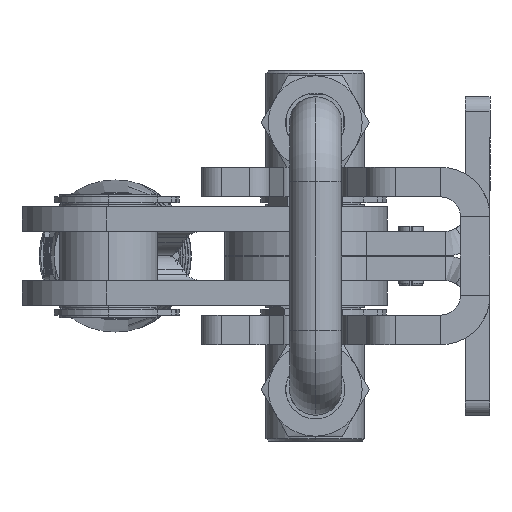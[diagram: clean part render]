
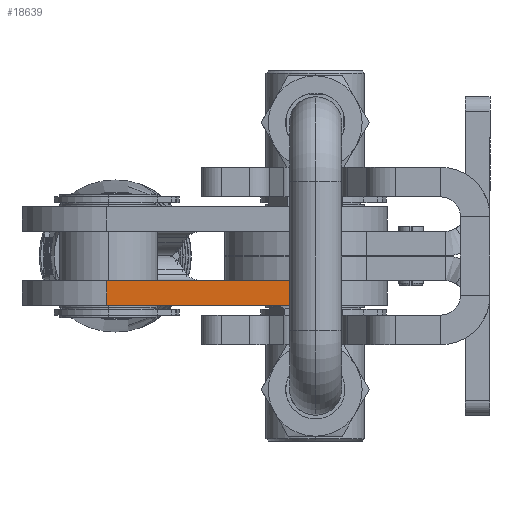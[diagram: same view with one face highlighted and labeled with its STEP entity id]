
A CAD part, left-side view. The second image highlights one B-rep face of the part: STEP entity #18639.
In plain terms, the highlighted planar face has unit normal (-1, 0.022, 0) as drawn and (-1, 0, -0.025) by its records, which use the part's own axes.
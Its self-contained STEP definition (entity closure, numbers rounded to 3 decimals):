
#2094 = EDGE_LOOP ( 'NONE', ( #16366, #10425, #19497, #23402 ) ) ;
#2741 = DIRECTION ( 'NONE',  ( 0.025, 0., -1. ) ) ;
#3157 = AXIS2_PLACEMENT_3D ( 'NONE', #4588, #12251, #2741 ) ;
#3495 = VECTOR ( 'NONE', #14475, 1000. ) ;
#4153 = VECTOR ( 'NONE', #23019, 1000. ) ;
#4588 = CARTESIAN_POINT ( 'NONE',  ( -16.495, 0., -0.412 ) ) ;
#4803 = VERTEX_POINT ( 'NONE', #10460 ) ;
#5293 = LINE ( 'NONE', #14715, #3495 ) ;
#5972 = EDGE_CURVE ( 'NONE', #11363, #4803, #18926, .T. ) ;
#6224 = VECTOR ( 'NONE', #14960, 1000. ) ;
#7076 = EDGE_CURVE ( 'NONE', #11363, #12077, #5293, .T. ) ;
#7721 = CARTESIAN_POINT ( 'NONE',  ( -15.495, 0., -40.437 ) ) ;
#8351 = CARTESIAN_POINT ( 'NONE',  ( -16.495, -5., -0.412 ) ) ;
#10425 = ORIENTED_EDGE ( 'NONE', *, *, #16581, .F. ) ;
#10460 = CARTESIAN_POINT ( 'NONE',  ( -16.495, 0., -0.412 ) ) ;
#11363 = VERTEX_POINT ( 'NONE', #7721 ) ;
#12077 = VERTEX_POINT ( 'NONE', #24124 ) ;
#12251 = DIRECTION ( 'NONE',  ( 1., 0., 0.025 ) ) ;
#13364 = CARTESIAN_POINT ( 'NONE',  ( -16.495, 0., -0.412 ) ) ;
#13746 = CARTESIAN_POINT ( 'NONE',  ( -16.495, -5., -0.412 ) ) ;
#14475 = DIRECTION ( 'NONE',  ( 0., -1., 0. ) ) ;
#14715 = CARTESIAN_POINT ( 'NONE',  ( -15.495, 0., -40.437 ) ) ;
#14960 = DIRECTION ( 'NONE',  ( -0.025, 0., 1. ) ) ;
#15867 = DIRECTION ( 'NONE',  ( -0.025, 0., 1. ) ) ;
#16249 = EDGE_CURVE ( 'NONE', #12077, #17650, #23286, .T. ) ;
#16366 = ORIENTED_EDGE ( 'NONE', *, *, #16249, .T. ) ;
#16581 = EDGE_CURVE ( 'NONE', #4803, #17650, #23141, .T. ) ;
#17650 = VERTEX_POINT ( 'NONE', #8351 ) ;
#17721 = FACE_OUTER_BOUND ( 'NONE', #2094, .T. ) ;
#18639 = ADVANCED_FACE ( 'NONE', ( #17721 ), #23281, .F. ) ;
#18770 = VECTOR ( 'NONE', #15867, 1000. ) ;
#18926 = LINE ( 'NONE', #24376, #6224 ) ;
#19497 = ORIENTED_EDGE ( 'NONE', *, *, #5972, .F. ) ;
#23019 = DIRECTION ( 'NONE',  ( 0., -1., 0. ) ) ;
#23141 = LINE ( 'NONE', #13364, #4153 ) ;
#23281 = PLANE ( 'NONE',  #3157 ) ;
#23286 = LINE ( 'NONE', #13746, #18770 ) ;
#23402 = ORIENTED_EDGE ( 'NONE', *, *, #7076, .T. ) ;
#24124 = CARTESIAN_POINT ( 'NONE',  ( -15.495, -5., -40.437 ) ) ;
#24376 = CARTESIAN_POINT ( 'NONE',  ( -16.495, 0., -0.412 ) ) ;
